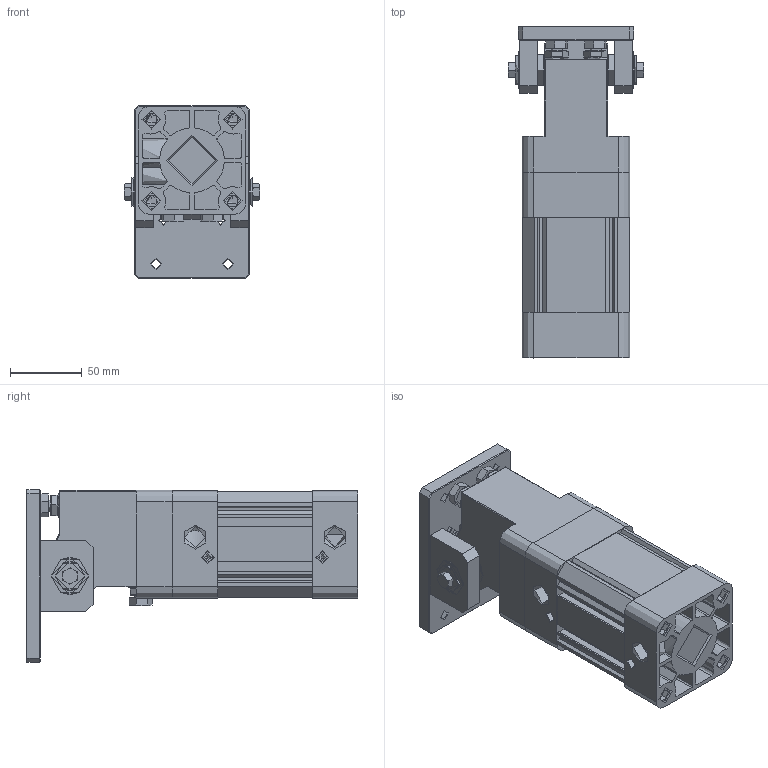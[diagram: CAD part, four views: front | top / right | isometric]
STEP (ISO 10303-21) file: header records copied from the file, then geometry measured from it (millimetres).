
FILE_DESCRIPTION(/* description */ (''),/* implementation_level */ '2;1');
FILE_NAME(/* name */ 'DHR2C-63M40PPV-ZG-ZB.stp',/* time_stamp */ '2025-06-12T08:19:50+08:00',/* author */ (''),/* organization */ (''),/* preprocessor_version */ 'ST-DEVELOPER v15',/* originating_system */ 'SIEMENS PLM Software NX 10.0',/* authorisation */ '');
FILE_SCHEMA (('AP203_CONFIGURATION_CONTROLLED_3D_DESIGN_OF_MECHANICAL_PARTS_AND_ASSEMBLIES_MIM_LF { 1 0 10303 403 2 1 2}'));
Products named in the file (1): Admi31B8C635pveg
Bounding box: 94 x 230.51 x 120 mm (x, y, z)
Topology: 27 solids, 42 shells, 1483 faces, 4283 edges, 2854 vertices
Faces by surface type: plane 626, cylinder 453, cone 209, torus 111, bspline 52, sphere 32
Full cylindrical faces by diameter (mm): 2 x2, 4.2 x4, 5 x14, 5.2 x26, 6 x13, 6.5 x6, 6.8 x10, 8 x8, 8.085 x4, 8.499 x2, 10.5 x4, 12 x2, 13 x8, 14.5 x2, 16 x12, 16.4 x4, 16.5 x2, 16.792 x4, 20 x2, 20.5 x2, 21.396 x4, 22 x7, 24 x2, 26 x2, 28 x4, 41 x1, 44.4 x1
Entity records: 94589 total; most frequent: CARTESIAN_POINT 60141, ORIENTED_EDGE 7290, DIRECTION 6310, EDGE_CURVE 3645, VERTEX_POINT 2603, AXIS2_PLACEMENT_3D 2396, EDGE_LOOP 1972, LINE 1518
